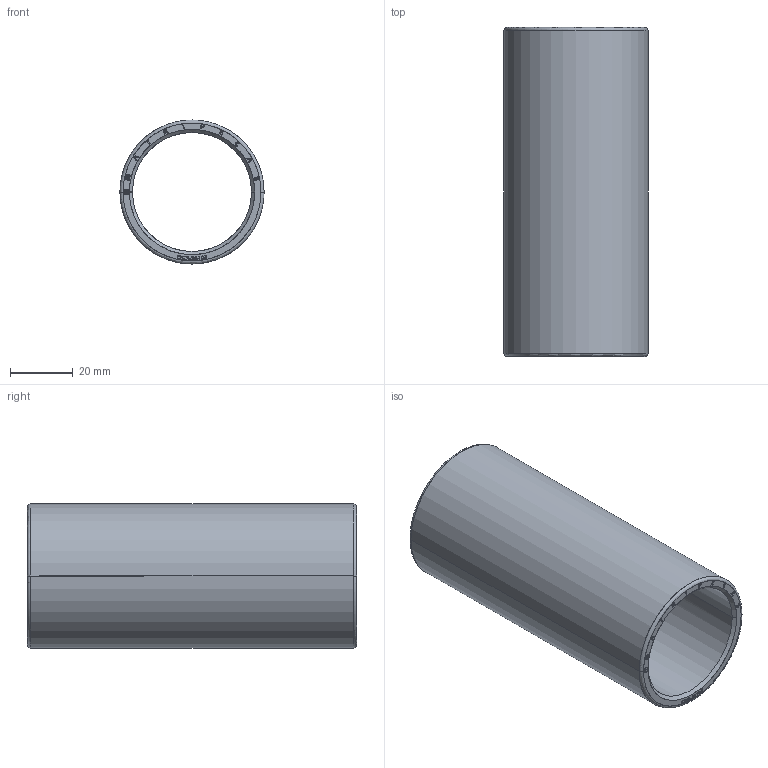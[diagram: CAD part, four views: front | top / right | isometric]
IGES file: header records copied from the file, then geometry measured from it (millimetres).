
Start section: SolidWorks IGES file using analytic representation for surfaces
Global section: file name: D:\Cleonir_arquivos\MT_15_07\Colar De Esferas Tipo 2\CET2-38105.igs; native system: SolidWorks 2013; preprocessor: SolidWorks 2013; author: Cleonir; date: 130728.193613; units: millimetre
Bounding box: 46 x 105 x 46 mm (x, y, z)
Surface area: 28895.9 mm2 (no closed solid volume)
Topology: 0 solids, 0 shells, 322 faces, 3890 edges, 3890 vertices
Faces by surface type: bspline 296, revolution 26
